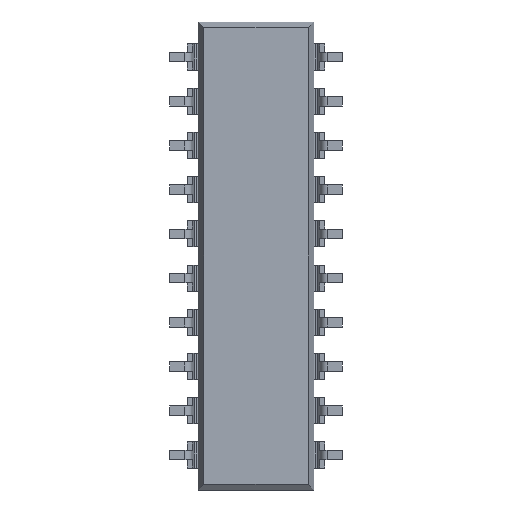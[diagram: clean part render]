
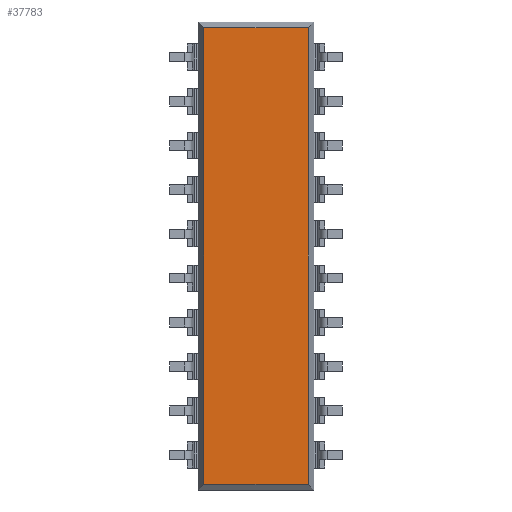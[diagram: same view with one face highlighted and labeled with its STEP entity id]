
A CAD part, front view. The second image highlights one B-rep face of the part: STEP entity #37783.
In plain terms, the highlighted planar face has unit normal (0, -1, 0).
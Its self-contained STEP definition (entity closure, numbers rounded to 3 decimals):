
#778 = EDGE_CURVE ( 'NONE', #6081, #32726, #34019, .T. ) ;
#1495 = LINE ( 'NONE', #14692, #20074 ) ;
#1679 = VECTOR ( 'NONE', #28933, 1000. ) ;
#2401 = CARTESIAN_POINT ( 'NONE',  ( 2.997, 0., 0.328 ) ) ;
#2512 = LINE ( 'NONE', #15713, #1679 ) ;
#4339 = CARTESIAN_POINT ( 'NONE',  ( 3.325, 0., 26.552 ) ) ;
#6081 = VERTEX_POINT ( 'NONE', #16867 ) ;
#6670 = ORIENTED_EDGE ( 'NONE', *, *, #778, .T. ) ;
#8259 = AXIS2_PLACEMENT_3D ( 'NONE', #25427, #38635, #8963 ) ;
#8368 = ORIENTED_EDGE ( 'NONE', *, *, #23859, .T. ) ;
#8963 = DIRECTION ( 'NONE',  ( 0., 0., 1. ) ) ;
#12212 = PLANE ( 'NONE',  #8259 ) ;
#14692 = CARTESIAN_POINT ( 'NONE',  ( 3.325, 0., 0.328 ) ) ;
#14843 = LINE ( 'NONE', #28061, #37902 ) ;
#15042 = ORIENTED_EDGE ( 'NONE', *, *, #36676, .F. ) ;
#15713 = CARTESIAN_POINT ( 'NONE',  ( 2.997, 0., 26.88 ) ) ;
#16867 = CARTESIAN_POINT ( 'NONE',  ( 2.997, 0., 26.552 ) ) ;
#17536 = DIRECTION ( 'NONE',  ( -1., 0., 0. ) ) ;
#20074 = VECTOR ( 'NONE', #27910, 1000. ) ;
#22115 = ORIENTED_EDGE ( 'NONE', *, *, #30151, .F. ) ;
#22458 = EDGE_LOOP ( 'NONE', ( #15042, #6670, #8368, #22115 ) ) ;
#23859 = EDGE_CURVE ( 'NONE', #32726, #26480, #14843, .T. ) ;
#24929 = CARTESIAN_POINT ( 'NONE',  ( -2.997, 0., 26.552 ) ) ;
#25427 = CARTESIAN_POINT ( 'NONE',  ( -2.997, 0., 26.88 ) ) ;
#26480 = VERTEX_POINT ( 'NONE', #35063 ) ;
#27910 = DIRECTION ( 'NONE',  ( -1., 0., 0. ) ) ;
#28061 = CARTESIAN_POINT ( 'NONE',  ( -2.997, 0., 26.88 ) ) ;
#28933 = DIRECTION ( 'NONE',  ( 0., 0., -1. ) ) ;
#30151 = EDGE_CURVE ( 'NONE', #34970, #26480, #1495, .T. ) ;
#31469 = VECTOR ( 'NONE', #17536, 1000. ) ;
#32726 = VERTEX_POINT ( 'NONE', #24929 ) ;
#34019 = LINE ( 'NONE', #4339, #31469 ) ;
#34970 = VERTEX_POINT ( 'NONE', #2401 ) ;
#35063 = CARTESIAN_POINT ( 'NONE',  ( -2.997, 0., 0.328 ) ) ;
#36676 = EDGE_CURVE ( 'NONE', #6081, #34970, #2512, .T. ) ;
#37783 = ADVANCED_FACE ( 'NONE', ( #41885 ), #12212, .F. ) ;
#37902 = VECTOR ( 'NONE', #41274, 1000. ) ;
#38635 = DIRECTION ( 'NONE',  ( 0., 1., 0. ) ) ;
#41274 = DIRECTION ( 'NONE',  ( 0., 0., -1. ) ) ;
#41885 = FACE_OUTER_BOUND ( 'NONE', #22458, .T. ) ;
